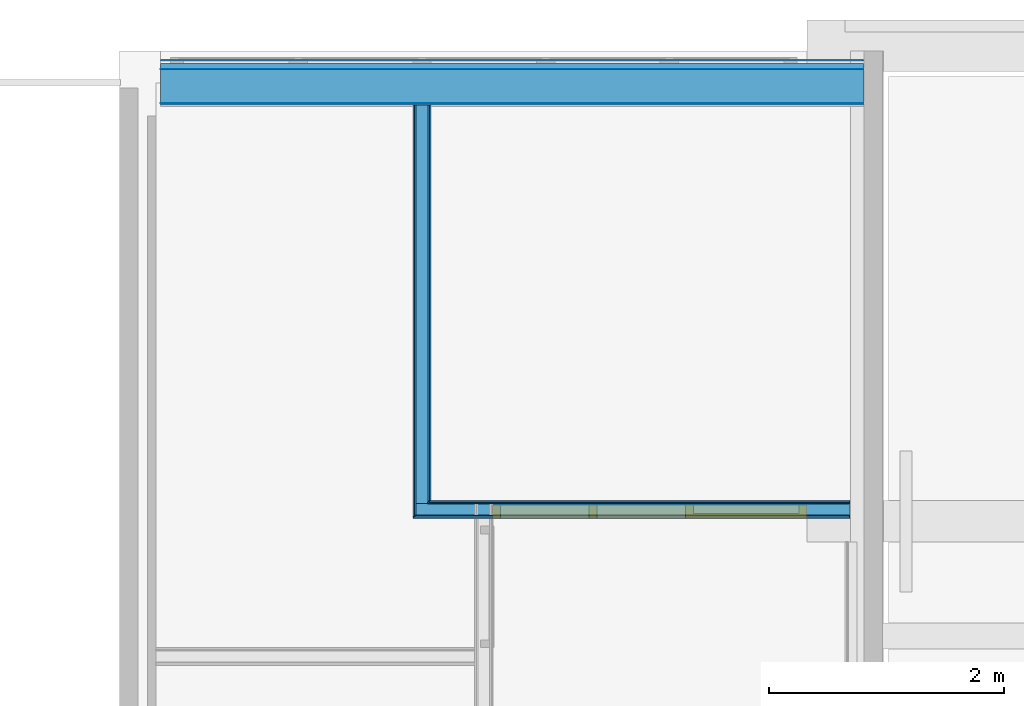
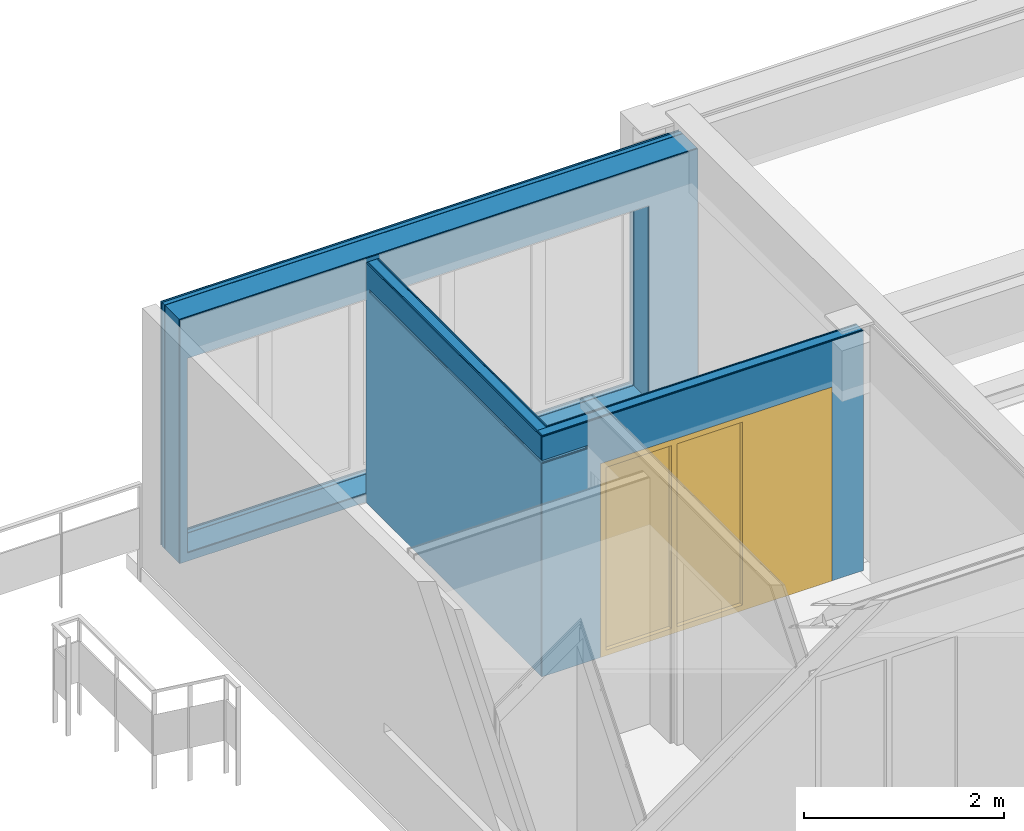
# One storey, part 8 of 13: 17 building element parts, 1 door, 2 openings, 3 elements without a shape of their own.
"""IFC2X3 building model written with IfcOpenShell, lengths in millimetres."""

from ifc_helpers import new_model, entity, si_unit, converted_unit, derived_unit, money_unit, direction, frame, origin_with_axes, place, context, subcontext, project, spatial, open_shell, faceted_brep, surface_model, material, type_object, element, fill, aggregate, save


model = new_model("IFC2X3")

# Units and contexts
model_context = context("Model", 3, precision=0.01, world=origin_with_axes(), true_north=direction((0.0, 1.0)))
body_context = subcontext(model_context, "Body", "Model", "MODEL_VIEW")
ifc_project = project(units=[si_unit("LENGTHUNIT", "METRE", prefix="MILLI"), si_unit("AREAUNIT", "SQUARE_METRE"), si_unit("VOLUMEUNIT", "CUBIC_METRE"), converted_unit("PLANEANGLEUNIT", "DEGREE", entity("IfcPlaneAngleMeasure", 0.0174532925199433), si_unit("PLANEANGLEUNIT", "RADIAN"), dimensions=[0, 0, 0, 0, 0, 0, 0]), money_unit("EUR"), converted_unit("TIMEUNIT", "Year", entity("IfcTimeMeasure", 31557600.0), si_unit("TIMEUNIT", "SECOND"), dimensions=[0, 0, 1, 0, 0, 0, 0]), si_unit("MASSUNIT", "GRAM", prefix="KILO"), si_unit("THERMODYNAMICTEMPERATUREUNIT", "DEGREE_CELSIUS"), si_unit("LUMINOUSINTENSITYUNIT", "LUMEN"), si_unit("ENERGYUNIT", "JOULE", prefix="MEGA"), derived_unit("THERMALCONDUCTANCEUNIT", [(si_unit("POWERUNIT", "WATT"), 1), (si_unit("LENGTHUNIT", "METRE"), -1), (si_unit("THERMODYNAMICTEMPERATUREUNIT", "KELVIN"), -1)]), derived_unit("SPECIFICHEATCAPACITYUNIT", [(si_unit("ENERGYUNIT", "JOULE"), 1), (si_unit("MASSUNIT", "GRAM", prefix="KILO"), -1), (si_unit("THERMODYNAMICTEMPERATUREUNIT", "KELVIN"), -1)]), derived_unit("MASSDENSITYUNIT", [(si_unit("MASSUNIT", "GRAM", prefix="KILO"), 1), (si_unit("VOLUMEUNIT", "CUBIC_METRE"), -1)])], contexts=[model_context])

# Site, building, storey
site_placement = place(None, origin_with_axes())
site = spatial("IfcSite", under=ifc_project, at=site_placement, Name="<site naam>", CompositionType="ELEMENT")
building_placement = place(site_placement, origin_with_axes())
building = spatial("IfcBuilding", under=site, at=building_placement, Name="<Naam gebouw>", CompositionType="ELEMENT")
storey_placement = place(building_placement, frame((0.0, 0.0, 3188.0), z_axis=(0.0, 0.0, 1.0), x_axis=(1.0, 0.0, 0.0)))
storey = spatial("IfcBuildingStorey", under=building, at=storey_placement, Name="01 1e tussenverdieping", CompositionType="ELEMENT", Elevation=3188.0)

# Door
door_style = type_object("IfcDoorStyle", Name="D1 zl1-b 27", ConstructionType="NOTDEFINED", OperationType="SINGLE_SWING_LEFT", ParameterTakesPrecedence=False, Sizeable=False)
wall_2_placement = place(storey_placement, frame((58037.78286156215, 16175.00000000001, 0.0), z_axis=(0.0, 0.0, 1.0), x_axis=(-1.0, 0.0, 0.0)))
opening_2_placement = place(wall_2_placement, frame((1700.42063078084, 0.0, 0.0), z_axis=(0.0, 0.0, 1.0), x_axis=(1.0, 0.0, 0.0)))
door_placement = place(opening_2_placement, frame((-1337.637769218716, 0.0, 0.0), z_axis=(0.0, 0.0, 1.0), x_axis=(1.0, 0.0, 0.0)))
door = element("IfcDoor", 1, at=door_placement, inside=storey, type_object=door_style, Name="22_BI-E-15_305", ObjectType="DOOR", OverallHeight=2367.0, OverallWidth=2675.28, context=body_context, shape_type="SurfaceModel", body=[
    faceted_brep([(49.99999999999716, 109.9999999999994, 0.0), (67.00000000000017, 109.9999999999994, 0.0), (67.00000000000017, 109.9999999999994, 12.00000000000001), (49.99999999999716, 109.9999999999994, 12.00000000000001), (984.0000000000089, 109.9999999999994, 0.0), (967.0000000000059, 109.9999999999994, 0.0), (967.0000000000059, 35.99999999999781, 0.0), (67.00000000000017, 35.99999999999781, 0.0), (67.00000000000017, 35.99999999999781, 12.00000000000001), (967.0000000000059, 35.99999999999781, 12.00000000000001), (967.0000000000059, 109.9999999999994, 12.00000000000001), (984.0000000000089, 109.9999999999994, 12.00000000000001)], [[[0, 1, 2, 3]], [[0, 4, 5, 6, 7, 1]], [[1, 7, 8, 2]], [[3, 2, 8, 9, 10, 11]], [[4, 0, 3, 11]], [[5, 4, 11, 10]], [[6, 5, 10, 9]], [[7, 6, 9, 8]]]),
    faceted_brep([(2675.275538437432, 149.9999999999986, 0.0), (2675.275538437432, 35.99999999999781, 0.0), (2608.275538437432, 35.99999999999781, 0.0), (2608.275538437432, 149.9999999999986, 0.0), (2675.275538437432, 149.9999999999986, 2300.0), (2675.275538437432, 35.99999999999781, 2300.0), (2608.275538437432, 35.99999999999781, 2300.0), (2608.275538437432, 35.99999999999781, 67.00000000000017), (2608.275538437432, 149.9999999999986, 67.00000000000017), (2608.275538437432, 149.9999999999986, 2300.0)], [[[0, 1, 2, 3]], [[4, 5, 1, 0]], [[1, 5, 6, 7, 2]], [[3, 2, 7, 8]], [[0, 3, 8, 9, 4]], [[9, 6, 5, 4]], [[8, 7, 6, 9]]]),
    faceted_brep([(967.0000000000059, 109.9999999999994, 0.0), (967.0000000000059, 35.99999999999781, 0.0), (967.0000000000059, 35.99999999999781, 2300.0), (967.0000000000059, 109.9999999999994, 2300.0), (984.0000000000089, 109.9999999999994, 0.0), (984.0000000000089, 149.9999999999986, 0.0), (1034.000000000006, 149.9999999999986, 0.0), (1034.000000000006, 35.99999999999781, 0.0), (1034.000000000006, 35.99999999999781, 67.00000000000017), (1034.000000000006, 35.99999999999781, 2300.0), (984.0000000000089, 109.9999999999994, 2300.0), (1034.000000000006, 149.9999999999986, 2300.0), (984.0000000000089, 149.9999999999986, 2300.0), (1034.000000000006, 149.9999999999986, 66.99999999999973)], [[[0, 1, 2, 3]], [[4, 5, 6, 7, 1, 0]], [[7, 8, 9, 2, 1]], [[10, 3, 2, 9, 11, 12]], [[10, 4, 0, 3]], [[12, 5, 4, 10]], [[12, 11, 13, 6, 5]], [[6, 13, 8, 7]], [[13, 11, 9, 8]]]),
    faceted_brep([(2608.275538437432, 149.9999999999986, 67.00000000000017), (2608.275538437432, 35.99999999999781, 67.00000000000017), (2608.275538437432, 35.99999999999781, 0.0), (2608.275538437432, 149.9999999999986, 0.0), (1034.000000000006, 149.9999999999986, 67.00000000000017), (1034.000000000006, 35.99999999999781, 67.00000000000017), (1034.000000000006, 35.99999999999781, 0.0), (1034.000000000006, 149.9999999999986, 0.0)], [[[0, 1, 2, 3]], [[4, 5, 1, 0]], [[1, 5, 6, 2]], [[3, 2, 6, 7]], [[0, 3, 7, 4]], [[7, 6, 5, 4]]]),
    faceted_brep([(49.99999999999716, 109.9999999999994, 2300.0), (49.99999999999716, 149.9999999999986, 2300.0), (0.0, 149.9999999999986, 2300.0), (0.0, 35.99999999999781, 2300.0), (67.00000000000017, 35.99999999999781, 2300.0), (67.00000000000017, 109.9999999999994, 2300.0), (49.99999999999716, 109.9999999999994, 0.0), (49.99999999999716, 149.9999999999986, 0.0), (0.0, 149.9999999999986, 0.0), (0.0, 35.99999999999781, 0.0), (67.00000000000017, 35.99999999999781, 0.0), (67.00000000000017, 109.9999999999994, 0.0)], [[[0, 1, 2, 3, 4, 5]], [[0, 6, 7, 1]], [[7, 8, 2, 1]], [[2, 8, 9, 3]], [[3, 9, 10, 4]], [[5, 4, 10, 11]], [[5, 11, 6, 0]], [[6, 11, 10, 9, 8, 7]]]),
    faceted_brep([(984.0000000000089, 149.9999999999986, 2317.0), (49.99999999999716, 149.9999999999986, 2317.0), (49.99999999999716, 149.9999999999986, 2300.0), (0.0, 149.9999999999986, 2300.0), (0.0, 149.9999999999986, 2367.0), (2675.275538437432, 149.9999999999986, 2367.0), (2675.275538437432, 149.9999999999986, 2300.0), (2608.275538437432, 149.9999999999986, 2300.0), (1034.000000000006, 149.9999999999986, 2300.0), (984.0000000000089, 149.9999999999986, 2300.0), (984.0000000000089, 109.9999999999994, 2317.0), (49.99999999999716, 109.9999999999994, 2317.0), (49.99999999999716, 109.9999999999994, 2300.0), (67.00000000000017, 109.9999999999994, 2300.0), (67.00000000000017, 35.99999999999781, 2300.0), (0.0, 35.99999999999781, 2300.0), (0.0, 35.99999999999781, 2367.0), (2675.275538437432, 35.99999999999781, 2367.0), (2675.275538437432, 35.99999999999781, 2300.0), (2608.275538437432, 35.99999999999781, 2300.0), (1034.000000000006, 35.99999999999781, 2300.0), (984.0000000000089, 109.9999999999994, 2300.0), (967.0000000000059, 35.99999999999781, 2300.0)], [[[0, 1, 2, 3, 4, 5, 6, 7, 8, 9]], [[0, 10, 11, 1]], [[1, 11, 12, 2]], [[12, 13, 14, 15, 3, 2]], [[4, 3, 15, 16]], [[5, 4, 16, 17]], [[6, 5, 17, 18]], [[7, 6, 18, 19]], [[8, 7, 19, 20]], [[21, 9, 8, 20, 22, 14, 13]], [[9, 21, 10, 0]], [[12, 11, 10, 21, 13]], [[14, 22, 20, 19, 18, 17, 16, 15]]]),
    faceted_brep([(49.99999999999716, 149.9999999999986, 0.0), (984.0000000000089, 149.9999999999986, 0.0), (984.0000000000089, 109.9999999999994, 0.0), (49.99999999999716, 109.9999999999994, 0.0), (49.99999999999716, 149.9999999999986, 2317.0), (984.0000000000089, 149.9999999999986, 2317.0), (984.0000000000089, 109.9999999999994, 2317.0), (49.99999999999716, 109.9999999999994, 2317.0)], [[[0, 1, 2, 3]], [[0, 4, 5, 1]], [[1, 5, 6, 2]], [[3, 2, 6, 7]], [[4, 0, 3, 7]], [[5, 4, 7, 6]]]),
    surface_model("IfcShellBasedSurfaceModel", [(1854.637769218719, 89.99999999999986, 67.00000000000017), (2608.275538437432, 89.99999999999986, 67.00000000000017), (2608.275538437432, 89.99999999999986, 2300.0), (1854.637769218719, 89.99999999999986, 2300.0)], [open_shell([[[0, 1, 2, 3]]])]),
    surface_model("IfcShellBasedSurfaceModel", [(1854.637769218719, 101.9999999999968, 67.00000000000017), (1854.637769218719, 102.0000000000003, 2300.0), (2608.275538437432, 102.0000000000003, 2300.0), (2608.275538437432, 101.9999999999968, 67.00000000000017)], [open_shell([[[0, 1, 2, 3]]])]),
    surface_model("IfcShellBasedSurfaceModel", [(1034.000000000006, 89.99999999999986, 67.00000000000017), (1787.637769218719, 89.99999999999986, 67.00000000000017), (1787.637769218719, 89.99999999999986, 2300.0), (1034.000000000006, 89.99999999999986, 2300.0)], [open_shell([[[0, 1, 2, 3]]])]),
    surface_model("IfcShellBasedSurfaceModel", [(1034.000000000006, 102.0000000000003, 67.00000000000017), (1034.000000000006, 102.0000000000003, 2300.0), (1787.637769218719, 102.0000000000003, 2300.0), (1787.637769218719, 101.9999999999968, 67.00000000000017)], [open_shell([[[0, 1, 2, 3]]])]),
    faceted_brep([(1854.637769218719, 35.99999999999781, 67.00000000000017), (1787.637769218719, 35.99999999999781, 67.00000000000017), (1787.637769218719, 149.9999999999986, 67.00000000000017), (1854.637769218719, 149.9999999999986, 67.00000000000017), (1854.637769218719, 35.99999999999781, 2300.0), (1787.637769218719, 35.99999999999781, 2300.0), (1787.637769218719, 149.9999999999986, 2300.0), (1854.637769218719, 149.9999999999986, 2300.0)], [[[0, 1, 2, 3]], [[0, 4, 5, 1]], [[1, 5, 6, 2]], [[3, 2, 6, 7]], [[4, 0, 3, 7]], [[5, 4, 7, 6]]]),
])

# Wall, opening, building element parts
wall_type_1 = type_object("IfcWallType", Name="HSB_285 gevelbeplating Brise Soleil 398", PredefinedType="NOTDEFINED")
wall_1_placement = place(storey_placement, frame((52175.00000000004, 19527.50019144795, 0.0), z_axis=(0.0, 0.0, 1.0), x_axis=(1.0, 0.0, 0.0)))
wall_1 = element("IfcWall", 2, at=wall_1_placement, inside=storey, type_object=wall_type_1, Name="21_Binnenwand_HSB_285")
opening_1_placement = place(wall_1_placement, frame((2750.436403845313, 0.0, 102.5), z_axis=(0.0, 0.0, 1.0), x_axis=(1.0, 0.0, 0.0)))
element("IfcOpeningElement", 3, at=opening_1_placement, cuts=wall_1, Name="21_BU-B-12_305", context=body_context, shape_type="Brep", body=[
    faceted_brep([(-2664.461586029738, -1.000000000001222, 2377.0), (-2664.461586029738, -1.000000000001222, 0.0), (2664.461586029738, -1.000000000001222, 0.0), (2664.461586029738, -1.000000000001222, 2377.0), (-2664.461586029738, 398.500000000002, 2377.0), (-2664.461586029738, 398.500000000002, 0.0), (2664.461586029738, 398.500000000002, 0.0), (2664.461586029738, 398.500000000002, 2377.0)], [[[0, 1, 2, 3]], [[4, 5, 1, 0]], [[5, 6, 2, 1]], [[6, 7, 3, 2]], [[7, 4, 0, 3]], [[6, 5, 4, 7]]]),
])
ifc_material_1 = material(Name="isolatie _steenwol_hard")
building_element_part_1_placement = place(wall_1_placement, origin_with_axes())
building_element_part_1 = element("IfcBuildingElementPart", 4, at=building_element_part_1_placement, material=ifc_material_1, Name="isolatie _steenwol_hard", context=body_context, shape_type="Brep", body=[
    faceted_brep([(5979.99999999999, 318.0000000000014, 2977.0), (5979.99999999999, 368.0000000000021, 2977.0), (0.0, 367.9999999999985, 2977.0), (0.0, 318.0000000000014, 2977.0), (5979.99999999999, 318.0000000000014, 0.0), (5979.99999999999, 368.0000000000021, 0.0), (0.0, 367.9999999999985, 0.0), (0.0, 318.0000000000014, 0.0)], [[[0, 1, 2, 3]], [[0, 4, 5, 1]], [[1, 5, 6, 2]], [[3, 2, 6, 7]], [[4, 0, 3, 7]], [[5, 4, 7, 6]]]),
])
ifc_material_2 = material(Name="folie_dampopen")
building_element_part_2_placement = place(wall_1_placement, origin_with_axes())
building_element_part_2 = element("IfcBuildingElementPart", 5, at=building_element_part_2_placement, material=ifc_material_2, Name="folie_dampopen", context=body_context, shape_type="Brep", body=[
    faceted_brep([(5979.99999999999, 317.499999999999, 2977.0), (5979.99999999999, 318.0000000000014, 2977.0), (0.0, 318.0000000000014, 2977.0), (0.0, 317.499999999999, 2977.0), (5979.99999999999, 317.499999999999, 0.0), (5979.99999999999, 318.0000000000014, 0.0), (0.0, 318.0000000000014, 0.0), (0.0, 317.499999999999, 0.0)], [[[0, 1, 2, 3]], [[0, 4, 5, 1]], [[1, 5, 6, 2]], [[3, 2, 6, 7]], [[4, 0, 3, 7]], [[5, 4, 7, 6]]]),
])
ifc_material_3 = material(Name="isolatie_houtvezel")
building_element_part_3_placement = place(wall_1_placement, origin_with_axes())
building_element_part_3 = element("IfcBuildingElementPart", 6, at=building_element_part_3_placement, material=ifc_material_3, Name="isolatie_houtvezel", context=body_context, shape_type="Brep", body=[
    faceted_brep([(5979.99999999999, 203.5044525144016, 3.000000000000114), (5979.99999999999, 203.5044525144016, 0.0), (5979.99999999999, 312.9999999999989, 0.0), (5979.99999999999, 312.9999999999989, 2977.0), (5979.99999999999, 28.00000000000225, 2977.0), (5979.99999999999, 27.99999999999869, 3.000000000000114), (2299.18498310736, 203.5044525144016, 3.000000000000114), (2299.18498310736, 203.5044525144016, 0.0), (2299.18498310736, 27.99999999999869, 0.0), (2149.1800496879, 27.99999999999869, 0.0), (2149.1800496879, 203.4998085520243, 0.0), (0.0, 203.4998085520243, 0.0), (0.0, 312.9999999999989, 0.0), (0.0, 312.9999999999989, 2977.0), (0.0, 27.99999999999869, 2977.0), (2299.18498310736, 27.99999999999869, 3.000000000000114), (0.0, 27.99999999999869, 3.000000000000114), (2149.1800496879, 27.99999999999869, 3.000000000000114), (2149.1800496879, 203.4998085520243, 3.000000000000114), (0.0, 203.4998085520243, 3.000000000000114)], [[[0, 1, 2, 3, 4, 5]], [[1, 0, 6, 7]], [[7, 8, 9, 10, 11, 12, 2, 1]], [[13, 3, 2, 12]], [[14, 4, 3, 13]], [[15, 5, 4, 14, 16, 17, 9, 8]], [[0, 5, 15, 6]], [[8, 7, 6, 15]], [[10, 9, 17, 18]], [[11, 10, 18, 19]], [[19, 16, 14, 13, 12, 11]], [[17, 16, 19, 18]]]),
])
ifc_material_4 = material(Name="brandwerende_bekleding")
building_element_part_4_placement = place(wall_1_placement, origin_with_axes())
building_element_part_4 = element("IfcBuildingElementPart", 7, at=building_element_part_4_placement, material=ifc_material_4, Name="brandwerende_bekleding", context=body_context, shape_type="Brep", body=[
    faceted_brep([(5979.99999999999, 312.9999999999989, 2977.0), (5979.99999999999, 317.499999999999, 2977.0), (0.0, 317.499999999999, 2977.0), (0.0, 312.9999999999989, 2977.0), (5979.99999999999, 312.9999999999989, 0.0), (5979.99999999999, 317.499999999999, 0.0), (0.0, 317.499999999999, 0.0), (0.0, 312.9999999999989, 0.0)], [[[0, 1, 2, 3]], [[0, 4, 5, 1]], [[1, 5, 6, 2]], [[3, 2, 6, 7]], [[4, 0, 3, 7]], [[5, 4, 7, 6]]]),
])
ifc_material_5 = material(Name="hout_OSB")
building_element_part_5_placement = place(wall_1_placement, origin_with_axes())
building_element_part_5 = element("IfcBuildingElementPart", 8, at=building_element_part_5_placement, material=ifc_material_5, Name="hout_OSB", context=body_context, shape_type="Brep", body=[
    faceted_brep([(5979.99999999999, 12.49999999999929, 3.000000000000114), (5979.99999999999, 27.49999999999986, 3.000000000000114), (5979.99999999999, 27.49999999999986, 2977.0), (5979.99999999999, 12.49999999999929, 2977.0), (2299.18498310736, 27.49999999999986, 3.000000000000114), (2299.18498310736, 12.49999999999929, 3.000000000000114), (2299.18498310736, 27.49999999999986, 0.0), (2149.1800496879, 27.49999999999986, 0.0), (2149.1800496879, 27.49999999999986, 3.000000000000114), (0.0, 27.49999999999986, 3.000000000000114), (0.0, 27.49999999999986, 2977.0), (0.0, 12.49999999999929, 2977.0), (0.0, 12.49999999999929, 3.000000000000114), (2149.1800496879, 12.49999999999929, 3.000000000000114), (2149.1800496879, 12.49999999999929, 0.0), (2299.18498310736, 12.49999999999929, 0.0)], [[[0, 1, 2, 3]], [[4, 1, 0, 5]], [[4, 6, 7, 8, 9, 10, 2, 1]], [[11, 3, 2, 10]], [[5, 0, 3, 11, 12, 13, 14, 15]], [[6, 4, 5, 15]], [[6, 15, 14, 7]], [[8, 7, 14, 13]], [[9, 8, 13, 12]], [[9, 12, 11, 10]]]),
])
ifc_material_6 = material(Name="folie_dampdicht")
building_element_part_6_placement = place(wall_1_placement, origin_with_axes())
building_element_part_6 = element("IfcBuildingElementPart", 9, at=building_element_part_6_placement, material=ifc_material_6, Name="folie_dampdicht", context=body_context, shape_type="Brep", body=[
    faceted_brep([(5979.99999999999, 27.49999999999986, 3.000000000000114), (5979.99999999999, 27.99999999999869, 3.000000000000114), (5979.99999999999, 28.00000000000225, 2977.0), (5979.99999999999, 27.49999999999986, 2977.0), (2299.18498310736, 28.00000000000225, 3.000000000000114), (2299.18498310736, 27.49999999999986, 3.000000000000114), (2299.18498310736, 27.99999999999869, 0.0), (2149.1800496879, 27.99999999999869, 0.0), (2149.1800496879, 28.00000000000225, 3.000000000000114), (0.0, 27.99999999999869, 3.000000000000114), (0.0, 27.99999999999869, 2977.0), (0.0, 27.49999999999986, 2977.0), (0.0, 27.49999999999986, 3.000000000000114), (2149.1800496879, 27.49999999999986, 3.000000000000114), (2149.1800496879, 27.49999999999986, 0.0), (2299.18498310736, 27.49999999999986, 0.0)], [[[0, 1, 2, 3]], [[4, 1, 0, 5]], [[4, 6, 7, 8, 9, 10, 2, 1]], [[11, 3, 2, 10]], [[5, 0, 3, 11, 12, 13, 14, 15]], [[6, 4, 5, 15]], [[6, 15, 14, 7]], [[8, 7, 14, 13]], [[9, 8, 13, 12]], [[9, 12, 11, 10]]]),
])
ifc_material_7 = material(Name="metaal - Aluminium gevelplaat")
building_element_part_7_placement = place(wall_1_placement, origin_with_axes())
building_element_part_7 = element("IfcBuildingElementPart", 10, at=building_element_part_7_placement, material=ifc_material_7, Name="metaal - Aluminium gevelplaat", context=body_context, shape_type="Brep", body=[
    faceted_brep([(5979.99999999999, 389.5000000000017, 2977.0), (5979.99999999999, 397.5000000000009, 2977.0), (0.0, 397.5000000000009, 2977.0), (0.0, 389.5000000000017, 2977.0), (5979.99999999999, 389.5000000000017, 0.0), (5979.99999999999, 397.5000000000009, 0.0), (0.0, 397.5000000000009, 0.0), (0.0, 389.5000000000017, 0.0)], [[[0, 1, 2, 3]], [[0, 4, 5, 1]], [[1, 5, 6, 2]], [[3, 2, 6, 7]], [[4, 0, 3, 7]], [[5, 4, 7, 6]]]),
])
aggregate(wall_1, [building_element_part_1, building_element_part_2, building_element_part_3, building_element_part_4, building_element_part_5, building_element_part_6, building_element_part_7])

# Wall, opening
wall_type_2 = type_object("IfcWallType", Name="MS-01 GF 150 ECO DGS/2.100.2.A 150", PredefinedType="NOTDEFINED")
wall_2 = element("IfcWall", 11, at=wall_2_placement, inside=storey, type_object=wall_type_2, Name="22_Binnenwand_MS-01")
opening_2 = element("IfcOpeningElement", 12, at=opening_2_placement, cuts=wall_2, Name="22_BI-E-15_305", context=body_context, shape_type="Brep", body=[
    faceted_brep([(-1337.637769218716, -1.000000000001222, 2367.0), (-1337.637769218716, -1.000000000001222, 0.0), (1337.637769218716, -1.000000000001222, 0.0), (1337.637769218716, -1.000000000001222, 2367.0), (-1337.637769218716, 150.9999999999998, 2367.0), (-1337.637769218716, 150.9999999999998, 0.0), (1337.637769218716, 150.9999999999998, 0.0), (1337.637769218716, 150.9999999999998, 2367.0)], [[[0, 1, 2, 3]], [[4, 5, 1, 0]], [[5, 6, 2, 1]], [[6, 7, 3, 2]], [[7, 4, 0, 3]], [[6, 5, 4, 7]]]),
])

fill(opening_2, door)

# Building element part
ifc_material_8 = material(Name="gipsplaat")
building_element_part_8_placement = place(wall_2_placement, origin_with_axes())
building_element_part_8 = element("IfcBuildingElementPart", 13, at=building_element_part_8_placement, material=ifc_material_8, Name="gipsplaat", context=body_context, shape_type="Brep", body=[
    faceted_brep([(3713.410552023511, 137.4999999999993, 2926.999999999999), (0.0, 137.4999999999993, 2926.999999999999), (0.0, 137.4999999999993, 0.0), (3713.410552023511, 137.4999999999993, 0.0), (3713.410552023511, 137.4999999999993, 2600.0), (3187.971712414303, 137.4999999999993, 2600.0), (3187.971712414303, 137.4999999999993, 2640.0), (3713.410552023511, 137.4999999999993, 2640.0), (0.0, 149.9999999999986, 2926.999999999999), (3713.410552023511, 149.9999999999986, 2926.999999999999), (0.0, 149.9999999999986, 0.0), (3713.410552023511, 149.9999999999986, 0.0), (3713.410552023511, 149.9999999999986, 2600.0), (3187.971712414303, 149.9999999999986, 2600.0), (3187.971712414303, 149.9999999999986, 2640.0), (3713.410552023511, 149.9999999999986, 2640.0)], [[[0, 1, 2, 3, 4, 5, 6, 7]], [[8, 1, 0, 9]], [[1, 8, 10, 2]], [[10, 11, 3, 2]], [[11, 12, 4, 3]], [[13, 5, 4, 12]], [[14, 6, 5, 13]], [[15, 7, 6, 14]], [[9, 0, 7, 15]], [[8, 9, 15, 14, 13, 12, 11, 10]]]),
])

building_element_part_9_placement = place(wall_2_placement, origin_with_axes())
building_element_part_9 = element("IfcBuildingElementPart", 14, at=building_element_part_9_placement, material=ifc_material_8, Name="gipsplaat", context=body_context, shape_type="Brep", body=[
    faceted_brep([(3588.410552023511, 12.49999999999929, 2926.999999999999), (0.0, 12.49999999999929, 2926.999999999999), (0.0, 12.49999999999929, 3.000000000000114), (3563.597878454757, 12.49999999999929, 3.000000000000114), (3563.597878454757, 12.49999999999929, 0.0), (3588.410552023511, 12.49999999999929, 0.0), (3588.410552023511, 12.49999999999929, 2600.0), (3187.971712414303, 12.49999999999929, 2600.0), (3187.971712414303, 12.49999999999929, 2640.0), (3588.410552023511, 12.49999999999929, 2640.0), (0.0, 24.99999999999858, 2926.999999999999), (3588.410552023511, 24.99999999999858, 2926.999999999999), (0.0, 24.99999999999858, 3.000000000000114), (3563.597878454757, 24.99999999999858, 3.000000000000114), (3563.597878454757, 24.99999999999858, 0.0), (3588.410552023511, 24.99999999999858, 0.0), (3588.410552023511, 24.99999999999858, 2600.0), (3187.971712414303, 24.99999999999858, 2600.0), (3187.971712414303, 24.99999999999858, 2640.0), (3588.410552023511, 24.99999999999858, 2640.0)], [[[0, 1, 2, 3, 4, 5, 6, 7, 8, 9]], [[10, 1, 0, 11]], [[1, 10, 12, 2]], [[13, 3, 2, 12]], [[14, 4, 3, 13]], [[5, 4, 14, 15]], [[15, 16, 6, 5]], [[17, 7, 6, 16]], [[18, 8, 7, 17]], [[19, 9, 8, 18]], [[11, 0, 9, 19]], [[10, 11, 19, 18, 17, 16, 15, 14, 13, 12]]]),
])

building_element_part_10_placement = place(wall_2_placement, origin_with_axes())
building_element_part_10 = element("IfcBuildingElementPart", 15, at=building_element_part_10_placement, material=ifc_material_8, Name="gipsplaat", context=body_context, shape_type="Brep", body=[
    faceted_brep([(3700.910552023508, 125.0, 2926.999999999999), (0.0, 125.0, 2926.999999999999), (0.0, 125.0, 0.0), (3700.910552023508, 125.0, 0.0), (3700.910552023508, 125.0, 2600.0), (3187.971712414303, 125.0, 2600.0), (3187.971712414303, 125.0, 2640.0), (3700.910552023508, 125.0, 2640.0), (0.0, 137.4999999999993, 2926.999999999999), (3700.910552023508, 137.4999999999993, 2926.999999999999), (0.0, 137.4999999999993, 0.0), (3700.910552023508, 137.4999999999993, 0.0), (3700.910552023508, 137.4999999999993, 2600.0), (3187.971712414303, 137.4999999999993, 2600.0), (3187.971712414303, 137.4999999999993, 2640.0), (3700.910552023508, 137.4999999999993, 2640.0)], [[[0, 1, 2, 3, 4, 5, 6, 7]], [[8, 1, 0, 9]], [[1, 8, 10, 2]], [[10, 11, 3, 2]], [[11, 12, 4, 3]], [[13, 5, 4, 12]], [[14, 6, 5, 13]], [[15, 7, 6, 14]], [[9, 0, 7, 15]], [[8, 9, 15, 14, 13, 12, 11, 10]]]),
])

ifc_material_9 = material(Name="isolatie_steenwol LSW")
building_element_part_11_placement = place(wall_2_placement, origin_with_axes())
building_element_part_11 = element("IfcBuildingElementPart", 16, at=building_element_part_11_placement, material=ifc_material_9, Name="isolatie_steenwol LSW", context=body_context, shape_type="Brep", body=[
    faceted_brep([(3688.410552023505, 24.99999999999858, 2926.999999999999), (0.0, 24.99999999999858, 2926.999999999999), (0.0, 24.99999999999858, 3.000000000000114), (3563.597878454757, 24.99999999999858, 3.000000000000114), (3563.597878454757, 24.99999999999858, 0.0), (3688.410552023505, 24.99999999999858, 0.0), (3688.410552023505, 24.99999999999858, 2600.0), (3187.971712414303, 24.99999999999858, 2600.0), (3187.971712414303, 24.99999999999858, 2640.0), (3688.410552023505, 24.99999999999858, 2640.0), (0.0, 125.0, 2926.999999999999), (3688.410552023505, 125.0, 2926.999999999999), (0.0, 125.0, 0.0), (0.0, 35.99999999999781, 0.0), (0.0, 35.99999999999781, 3.000000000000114), (3563.597878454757, 35.99999999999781, 3.000000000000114), (3563.597878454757, 35.99999999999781, 0.0), (3688.410552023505, 125.0, 0.0), (3688.410552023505, 125.0, 2600.0), (3187.971712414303, 125.0, 2600.0), (3187.971712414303, 125.0, 2640.0), (3688.410552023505, 125.0, 2640.0)], [[[0, 1, 2, 3, 4, 5, 6, 7, 8, 9]], [[10, 1, 0, 11]], [[1, 10, 12, 13, 14, 2]], [[15, 3, 2, 14]], [[16, 4, 3, 15]], [[4, 16, 13, 12, 17, 5]], [[17, 18, 6, 5]], [[19, 7, 6, 18]], [[20, 8, 7, 19]], [[21, 9, 8, 20]], [[11, 0, 9, 21]], [[10, 11, 21, 20, 19, 18, 17, 12]], [[15, 14, 13, 16]]]),
])

building_element_part_12_placement = place(wall_2_placement, origin_with_axes())
building_element_part_12 = element("IfcBuildingElementPart", 17, at=building_element_part_12_placement, material=ifc_material_8, Name="gipsplaat", context=body_context, shape_type="Brep", body=[
    faceted_brep([(3575.910552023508, 0.0, 2926.999999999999), (0.0, 0.0, 2926.999999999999), (0.0, 0.0, 3.000000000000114), (3563.597878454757, 0.0, 3.000000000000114), (3563.597878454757, 0.0, 0.0), (3575.910552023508, 0.0, 0.0), (3575.910552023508, 0.0, 2600.0), (3187.971712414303, 0.0, 2600.0), (3187.971712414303, 0.0, 2640.0), (3575.910552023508, 0.0, 2640.0), (0.0, 12.49999999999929, 2926.999999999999), (3575.910552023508, 12.49999999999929, 2926.999999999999), (0.0, 12.49999999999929, 3.000000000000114), (3563.597878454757, 12.49999999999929, 3.000000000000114), (3563.597878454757, 12.49999999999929, 0.0), (3575.910552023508, 12.49999999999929, 0.0), (3575.910552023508, 12.49999999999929, 2600.0), (3187.971712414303, 12.49999999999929, 2600.0), (3187.971712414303, 12.49999999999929, 2640.0), (3575.910552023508, 12.49999999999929, 2640.0)], [[[0, 1, 2, 3, 4, 5, 6, 7, 8, 9]], [[10, 1, 0, 11]], [[1, 10, 12, 2]], [[13, 3, 2, 12]], [[14, 4, 3, 13]], [[5, 4, 14, 15]], [[15, 16, 6, 5]], [[17, 7, 6, 16]], [[18, 8, 7, 17]], [[19, 9, 8, 18]], [[11, 0, 9, 19]], [[10, 11, 19, 18, 17, 16, 15, 14, 13, 12]]]),
])

aggregate(wall_2, [building_element_part_8, building_element_part_9, building_element_part_10, building_element_part_11, building_element_part_12])

# Wall, building element parts
wall_3_placement = place(storey_placement, frame((54399.37230953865, 19858.80019144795, 0.0), z_axis=(0.0, 0.0, 1.0), x_axis=(0.0, -1.0, 0.0)))
wall_3 = element("IfcWall", 18, at=wall_3_placement, inside=storey, type_object=wall_type_2, Name="22_Binnenwand_MS-01")
building_element_part_13_placement = place(wall_3_placement, origin_with_axes())
building_element_part_13 = element("IfcBuildingElementPart", 19, at=building_element_part_13_placement, material=ifc_material_8, Name="gipsplaat", context=body_context, shape_type="Brep", body=[
    faceted_brep([(318.7999999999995, 62.5, 2926.999999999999), (318.7999999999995, 75.00000000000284, 2926.999999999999), (318.7999999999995, 75.00000000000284, 3.000000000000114), (318.7999999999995, 74.81267356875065, 3.000000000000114), (318.7999999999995, 74.81267356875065, 0.0), (318.7999999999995, 62.5, 0.0), (3683.800191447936, 75.00000000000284, 2926.999999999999), (3683.800191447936, 62.5, 2926.999999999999), (3683.800191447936, 75.00000000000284, 2640.0), (388.8001914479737, 75.00000000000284, 2640.0), (388.8001914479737, 75.00000000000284, 2600.0), (3683.800191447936, 75.00000000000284, 2600.0), (3683.800191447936, 75.00000000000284, 3.000000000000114), (3683.800191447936, 74.81267356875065, 3.000000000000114), (3683.800191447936, 74.81267356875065, 0.0), (3683.800191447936, 62.5, 0.0), (3683.800191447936, 62.5, 2600.0), (388.8001914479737, 62.5, 2600.0), (388.8001914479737, 62.5, 2640.0), (3683.800191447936, 62.5, 2640.0)], [[[0, 1, 2, 3, 4, 5]], [[6, 1, 0, 7]], [[1, 6, 8, 9, 10, 11, 12, 2]], [[13, 3, 2, 12]], [[14, 4, 3, 13]], [[5, 4, 14, 15]], [[7, 0, 5, 15, 16, 17, 18, 19]], [[6, 7, 19, 8]], [[18, 9, 8, 19]], [[17, 10, 9, 18]], [[16, 11, 10, 17]], [[12, 11, 16, 15, 14, 13]]]),
])
building_element_part_14_placement = place(wall_3_placement, origin_with_axes())
building_element_part_14 = element("IfcBuildingElementPart", 20, at=building_element_part_14_placement, material=ifc_material_9, Name="isolatie_steenwol LSW", context=body_context, shape_type="Brep", body=[
    faceted_brep([(318.7999999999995, -49.99999999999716, 2926.999999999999), (318.7999999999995, 49.99999999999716, 2926.999999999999), (318.7999999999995, 49.99999999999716, 0.0), (318.7999999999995, -49.99999999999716, 0.0), (3708.800191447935, 49.99999999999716, 2926.999999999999), (3708.800191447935, -49.99999999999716, 2926.999999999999), (3708.800191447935, 49.99999999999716, 2640.0), (388.8001914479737, 49.99999999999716, 2640.0), (388.8001914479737, 49.99999999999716, 2600.0), (3708.800191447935, 49.99999999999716, 2600.0), (3708.800191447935, 49.99999999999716, 0.0), (3708.800191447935, -49.99999999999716, 0.0), (3708.800191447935, -49.99999999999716, 2600.0), (388.8001914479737, -49.99999999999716, 2600.0), (388.8001914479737, -49.99999999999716, 2640.0), (3708.800191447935, -49.99999999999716, 2640.0)], [[[0, 1, 2, 3]], [[4, 1, 0, 5]], [[1, 4, 6, 7, 8, 9, 10, 2]], [[3, 2, 10, 11]], [[5, 0, 3, 11, 12, 13, 14, 15]], [[4, 5, 15, 6]], [[14, 7, 6, 15]], [[13, 8, 7, 14]], [[12, 9, 8, 13]], [[10, 9, 12, 11]]]),
])
building_element_part_15_placement = place(wall_3_placement, origin_with_axes())
building_element_part_15 = element("IfcBuildingElementPart", 21, at=building_element_part_15_placement, material=ifc_material_8, Name="gipsplaat", context=body_context, shape_type="Brep", body=[
    faceted_brep([(318.7999999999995, -62.5, 2926.999999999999), (318.7999999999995, -49.99999999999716, 2926.999999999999), (318.7999999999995, -49.99999999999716, 0.0), (318.7999999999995, -62.5, 0.0), (3808.800191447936, -49.99999999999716, 2926.999999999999), (3808.800191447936, -62.5, 2926.999999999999), (3808.800191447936, -49.99999999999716, 2640.0), (388.8001914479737, -49.99999999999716, 2640.0), (388.8001914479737, -49.99999999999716, 2600.0), (3808.800191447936, -49.99999999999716, 2600.0), (3808.800191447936, -49.99999999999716, 0.0), (3808.800191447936, -62.5, 0.0), (3808.800191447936, -62.5, 2600.0), (388.8001914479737, -62.5, 2600.0), (388.8001914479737, -62.5, 2640.0), (3808.800191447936, -62.5, 2640.0)], [[[0, 1, 2, 3]], [[4, 1, 0, 5]], [[1, 4, 6, 7, 8, 9, 10, 2]], [[3, 2, 10, 11]], [[5, 0, 3, 11, 12, 13, 14, 15]], [[4, 5, 15, 6]], [[14, 7, 6, 15]], [[13, 8, 7, 14]], [[12, 9, 8, 13]], [[10, 9, 12, 11]]]),
])
building_element_part_16_placement = place(wall_3_placement, origin_with_axes())
building_element_part_16 = element("IfcBuildingElementPart", 22, at=building_element_part_16_placement, material=ifc_material_8, Name="gipsplaat", context=body_context, shape_type="Brep", body=[
    faceted_brep([(318.7999999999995, -75.00000000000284, 2926.999999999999), (318.7999999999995, -62.5, 2926.999999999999), (318.7999999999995, -62.5, 0.0), (318.7999999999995, -75.00000000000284, 0.0), (3821.300191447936, -62.5, 2926.999999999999), (3821.300191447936, -75.00000000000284, 2926.999999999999), (3821.300191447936, -62.5, 2640.0), (388.8001914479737, -62.5, 2640.0), (388.8001914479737, -62.5, 2600.0), (3821.300191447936, -62.5, 2600.0), (3821.300191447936, -62.5, 0.0), (3821.300191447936, -75.00000000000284, 0.0), (3821.300191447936, -75.00000000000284, 2600.0), (388.8001914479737, -75.00000000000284, 2600.0), (388.8001914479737, -75.00000000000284, 2640.0), (3821.300191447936, -75.00000000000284, 2640.0)], [[[0, 1, 2, 3]], [[4, 1, 0, 5]], [[1, 4, 6, 7, 8, 9, 10, 2]], [[3, 2, 10, 11]], [[5, 0, 3, 11, 12, 13, 14, 15]], [[4, 5, 15, 6]], [[14, 7, 6, 15]], [[13, 8, 7, 14]], [[12, 9, 8, 13]], [[10, 9, 12, 11]]]),
])
building_element_part_17_placement = place(wall_3_placement, origin_with_axes())
building_element_part_17 = element("IfcBuildingElementPart", 23, at=building_element_part_17_placement, material=ifc_material_8, Name="gipsplaat", context=body_context, shape_type="Brep", body=[
    faceted_brep([(318.7999999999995, 49.99999999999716, 2926.999999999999), (318.7999999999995, 62.5, 2926.999999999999), (318.7999999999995, 62.5, 0.0), (318.7999999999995, 49.99999999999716, 0.0), (3696.300191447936, 62.5, 2926.999999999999), (3696.300191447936, 49.99999999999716, 2926.999999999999), (3696.300191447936, 62.5, 2640.0), (388.8001914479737, 62.5, 2640.0), (388.8001914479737, 62.5, 2600.0), (3696.300191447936, 62.5, 2600.0), (3696.300191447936, 62.5, 0.0), (3696.300191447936, 49.99999999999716, 0.0), (3696.300191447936, 49.99999999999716, 2600.0), (388.8001914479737, 49.99999999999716, 2600.0), (388.8001914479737, 49.99999999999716, 2640.0), (3696.300191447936, 49.99999999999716, 2640.0)], [[[0, 1, 2, 3]], [[4, 1, 0, 5]], [[1, 4, 6, 7, 8, 9, 10, 2]], [[3, 2, 10, 11]], [[5, 0, 3, 11, 12, 13, 14, 15]], [[4, 5, 15, 6]], [[14, 7, 6, 15]], [[13, 8, 7, 14]], [[12, 9, 8, 13]], [[10, 9, 12, 11]]]),
])
aggregate(wall_3, [building_element_part_13, building_element_part_14, building_element_part_15, building_element_part_16, building_element_part_17])

save(model, "model.ifc")
